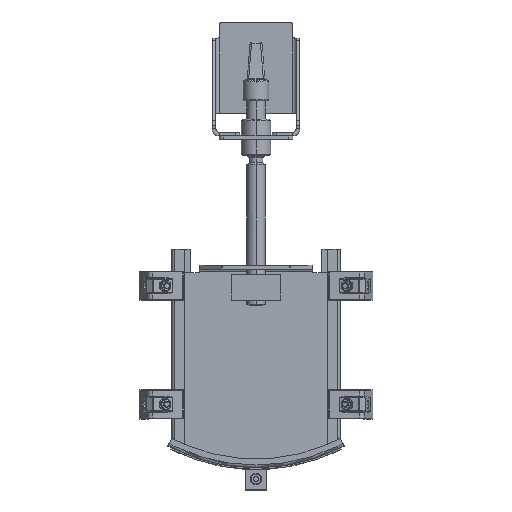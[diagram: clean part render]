
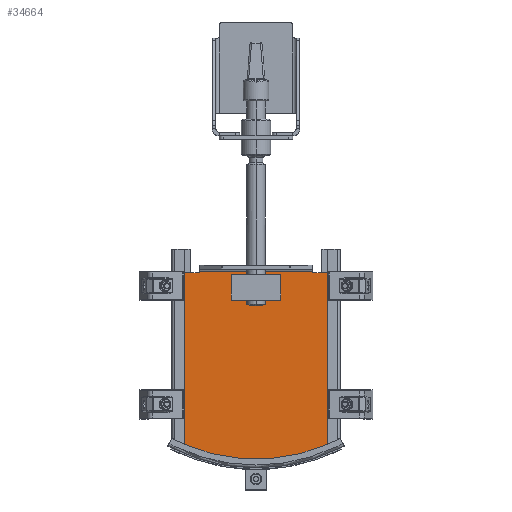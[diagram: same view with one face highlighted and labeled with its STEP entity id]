
A CAD part, top view. The second image highlights one B-rep face of the part: STEP entity #34664.
In plain terms, the highlighted planar face has unit normal (0, 0, 1).
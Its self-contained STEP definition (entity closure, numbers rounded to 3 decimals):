
#579 = VERTEX_POINT ( 'NONE', #20657 ) ;
#665 = CARTESIAN_POINT ( 'NONE',  ( 77., 257., 33. ) ) ;
#802 = LINE ( 'NONE', #27314, #54846 ) ;
#1783 = VERTEX_POINT ( 'NONE', #14410 ) ;
#1830 = CARTESIAN_POINT ( 'NONE',  ( 0., 245., 33. ) ) ;
#2808 = DIRECTION ( 'NONE',  ( 0., -1., 0. ) ) ;
#2821 = VECTOR ( 'NONE', #33125, 1000. ) ;
#4879 = CARTESIAN_POINT ( 'NONE',  ( 34., 217.5, 33. ) ) ;
#5188 = CIRCLE ( 'NONE', #53807, 2. ) ;
#5739 = VECTOR ( 'NONE', #44436, 1000. ) ;
#6115 = ORIENTED_EDGE ( 'NONE', *, *, #8218, .T. ) ;
#6371 = DIRECTION ( 'NONE',  ( 0., 1., 0. ) ) ;
#7734 = DIRECTION ( 'NONE',  ( 1., 0., 0. ) ) ;
#7974 = VERTEX_POINT ( 'NONE', #35717 ) ;
#8218 = EDGE_CURVE ( 'NONE', #43306, #39838, #5188, .T. ) ;
#8673 = DIRECTION ( 'NONE',  ( 1., 0., 0. ) ) ;
#9335 = EDGE_CURVE ( 'NONE', #31037, #579, #802, .T. ) ;
#10511 = EDGE_CURVE ( 'NONE', #36069, #39838, #51403, .T. ) ;
#10987 = ORIENTED_EDGE ( 'NONE', *, *, #14775, .T. ) ;
#11212 = EDGE_LOOP ( 'NONE', ( #32080, #32364, #6115, #29635, #45157, #10987, #29904, #15282 ) ) ;
#11299 = CARTESIAN_POINT ( 'NONE',  ( -34., 252.5, 33. ) ) ;
#11835 = AXIS2_PLACEMENT_3D ( 'NONE', #1830, #31094, #32694 ) ;
#12412 = ORIENTED_EDGE ( 'NONE', *, *, #26488, .F. ) ;
#12522 = VECTOR ( 'NONE', #2808, 1000. ) ;
#12914 = VECTOR ( 'NONE', #22455, 1000. ) ;
#13213 = CARTESIAN_POINT ( 'NONE',  ( 79., 255., 33. ) ) ;
#14165 = EDGE_CURVE ( 'NONE', #44518, #7974, #17928, .T. ) ;
#14410 = CARTESIAN_POINT ( 'NONE',  ( -97.995, 255., 33. ) ) ;
#14487 = DIRECTION ( 'NONE',  ( 0., -1., 0. ) ) ;
#14569 = ORIENTED_EDGE ( 'NONE', *, *, #9335, .F. ) ;
#14775 = EDGE_CURVE ( 'NONE', #50662, #1783, #28108, .T. ) ;
#15151 = DIRECTION ( 'NONE',  ( 1., 0., 0. ) ) ;
#15161 = CARTESIAN_POINT ( 'NONE',  ( -77., 257., 33. ) ) ;
#15282 = ORIENTED_EDGE ( 'NONE', *, *, #44193, .F. ) ;
#15594 = EDGE_CURVE ( 'NONE', #36069, #50662, #53410, .T. ) ;
#16006 = DIRECTION ( 'NONE',  ( 0., 0., -1. ) ) ;
#16027 = CARTESIAN_POINT ( 'NONE',  ( -79., 255., 33. ) ) ;
#16263 = LINE ( 'NONE', #11299, #2821 ) ;
#17468 = CARTESIAN_POINT ( 'NONE',  ( 97.995, 255., 33. ) ) ;
#17928 = LINE ( 'NONE', #48323, #41967 ) ;
#18017 = AXIS2_PLACEMENT_3D ( 'NONE', #46562, #29320, #8673 ) ;
#18082 = LINE ( 'NONE', #34991, #12914 ) ;
#18845 = CARTESIAN_POINT ( 'NONE',  ( -34., 252.5, 33. ) ) ;
#19356 = LINE ( 'NONE', #18845, #12522 ) ;
#19844 = EDGE_CURVE ( 'NONE', #43941, #31037, #49506, .T. ) ;
#20447 = VECTOR ( 'NONE', #21722, 1000. ) ;
#20657 = CARTESIAN_POINT ( 'NONE',  ( 34., 252.5, 33. ) ) ;
#20920 = DIRECTION ( 'NONE',  ( 0., 0., 1. ) ) ;
#21393 = AXIS2_PLACEMENT_3D ( 'NONE', #42003, #20920, #7734 ) ;
#21722 = DIRECTION ( 'NONE',  ( 1., 0., 0. ) ) ;
#22057 = ORIENTED_EDGE ( 'NONE', *, *, #34161, .F. ) ;
#22455 = DIRECTION ( 'NONE',  ( -1., 0., 0. ) ) ;
#26488 = EDGE_CURVE ( 'NONE', #579, #37319, #16263, .T. ) ;
#26649 = CARTESIAN_POINT ( 'NONE',  ( -97.995, 20.452, 33. ) ) ;
#26708 = CARTESIAN_POINT ( 'NONE',  ( -105., 257., 33. ) ) ;
#27314 = CARTESIAN_POINT ( 'NONE',  ( 34., 252.5, 33. ) ) ;
#28108 = LINE ( 'NONE', #49739, #41064 ) ;
#28630 = DIRECTION ( 'NONE',  ( -1., 0., 0. ) ) ;
#28671 = FACE_OUTER_BOUND ( 'NONE', #11212, .T. ) ;
#29320 = DIRECTION ( 'NONE',  ( 0., 0., -1. ) ) ;
#29635 = ORIENTED_EDGE ( 'NONE', *, *, #10511, .F. ) ;
#29904 = ORIENTED_EDGE ( 'NONE', *, *, #35730, .T. ) ;
#31037 = VERTEX_POINT ( 'NONE', #4879 ) ;
#31094 = DIRECTION ( 'NONE',  ( 0., 0., -1. ) ) ;
#32080 = ORIENTED_EDGE ( 'NONE', *, *, #14165, .F. ) ;
#32364 = ORIENTED_EDGE ( 'NONE', *, *, #45880, .T. ) ;
#32694 = DIRECTION ( 'NONE',  ( 1., 0., 0. ) ) ;
#32857 = FACE_BOUND ( 'NONE', #54398, .T. ) ;
#33125 = DIRECTION ( 'NONE',  ( -1., 0., 0. ) ) ;
#34161 = EDGE_CURVE ( 'NONE', #37319, #43941, #19356, .T. ) ;
#34389 = CARTESIAN_POINT ( 'NONE',  ( -34., 252.5, 33. ) ) ;
#34664 = ADVANCED_FACE ( 'NONE', ( #28671, #32857 ), #41192, .T. ) ;
#34991 = CARTESIAN_POINT ( 'NONE',  ( 98.172, 255., 33. ) ) ;
#35568 = CARTESIAN_POINT ( 'NONE',  ( -97.995, -42.001, 33. ) ) ;
#35717 = CARTESIAN_POINT ( 'NONE',  ( 97.995, 20.452, 33. ) ) ;
#35730 = EDGE_CURVE ( 'NONE', #1783, #54711, #40531, .T. ) ;
#36069 = VERTEX_POINT ( 'NONE', #15161 ) ;
#36600 = CIRCLE ( 'NONE', #11835, 245. ) ;
#37087 = CARTESIAN_POINT ( 'NONE',  ( 79., 257., 33. ) ) ;
#37319 = VERTEX_POINT ( 'NONE', #34389 ) ;
#39838 = VERTEX_POINT ( 'NONE', #665 ) ;
#39869 = VECTOR ( 'NONE', #15151, 1000. ) ;
#40531 = LINE ( 'NONE', #35568, #5739 ) ;
#41064 = VECTOR ( 'NONE', #28630, 1000. ) ;
#41192 = PLANE ( 'NONE',  #21393 ) ;
#41967 = VECTOR ( 'NONE', #14487, 1000. ) ;
#42003 = CARTESIAN_POINT ( 'NONE',  ( -105., 25.856, 33. ) ) ;
#43306 = VERTEX_POINT ( 'NONE', #13213 ) ;
#43941 = VERTEX_POINT ( 'NONE', #53376 ) ;
#44193 = EDGE_CURVE ( 'NONE', #7974, #54711, #36600, .T. ) ;
#44436 = DIRECTION ( 'NONE',  ( 0., -1., 0. ) ) ;
#44518 = VERTEX_POINT ( 'NONE', #17468 ) ;
#44621 = ORIENTED_EDGE ( 'NONE', *, *, #19844, .F. ) ;
#45157 = ORIENTED_EDGE ( 'NONE', *, *, #15594, .T. ) ;
#45380 = CARTESIAN_POINT ( 'NONE',  ( -34., 217.5, 33. ) ) ;
#45880 = EDGE_CURVE ( 'NONE', #44518, #43306, #18082, .T. ) ;
#46562 = CARTESIAN_POINT ( 'NONE',  ( -79., 257., 33. ) ) ;
#48323 = CARTESIAN_POINT ( 'NONE',  ( 97.995, 25.856, 33. ) ) ;
#49506 = LINE ( 'NONE', #45380, #39869 ) ;
#49739 = CARTESIAN_POINT ( 'NONE',  ( -98.172, 255., 33. ) ) ;
#50662 = VERTEX_POINT ( 'NONE', #16027 ) ;
#51403 = LINE ( 'NONE', #26708, #20447 ) ;
#53376 = CARTESIAN_POINT ( 'NONE',  ( -34., 217.5, 33. ) ) ;
#53410 = CIRCLE ( 'NONE', #18017, 2. ) ;
#53807 = AXIS2_PLACEMENT_3D ( 'NONE', #37087, #16006, #53973 ) ;
#53973 = DIRECTION ( 'NONE',  ( 1., 0., 0. ) ) ;
#54398 = EDGE_LOOP ( 'NONE', ( #44621, #22057, #12412, #14569 ) ) ;
#54711 = VERTEX_POINT ( 'NONE', #26649 ) ;
#54846 = VECTOR ( 'NONE', #6371, 1000. ) ;
